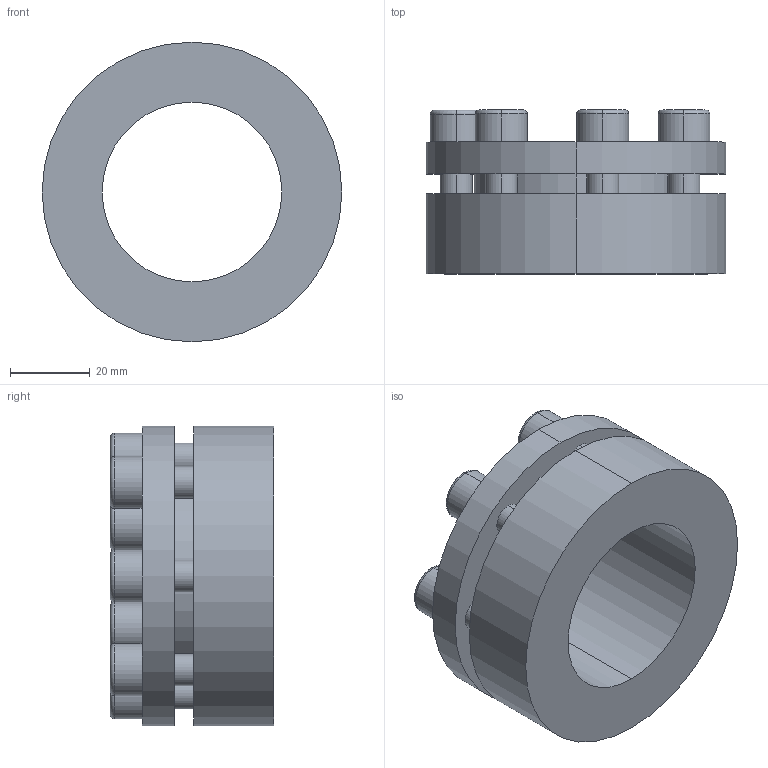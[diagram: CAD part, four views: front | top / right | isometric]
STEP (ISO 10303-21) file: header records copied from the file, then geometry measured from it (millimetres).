
FILE_DESCRIPTION (( 'STEP AP203' ), '1' );
FILE_NAME ('PL-H3 45-75.STEP', '2021-10-23T01:08:08', ( '' ), ( '' ), 'SwSTEP 2.0', 'SolidWorks 2018', '' );
FILE_SCHEMA (( 'CONFIG_CONTROL_DESIGN' ));
Length unit declared in the file: millimetre
Products named in the file (1): PL-H3 45-75
Bounding box: 75 x 41 x 75 mm (x, y, z)
Volume: 89690.2 mm3; surface area: 25387.8 mm2
Topology: 1 solids, 1 shells, 110 faces, 262 edges, 170 vertices
Faces by surface type: plane 60, cylinder 36, torus 14
Entity records: 3303 total; most frequent: DIRECTION 584, CARTESIAN_POINT 543, ORIENTED_EDGE 524, EDGE_CURVE 262, AXIS2_PLACEMENT_3D 211, VERTEX_POINT 170, VECTOR 162, LINE 162
